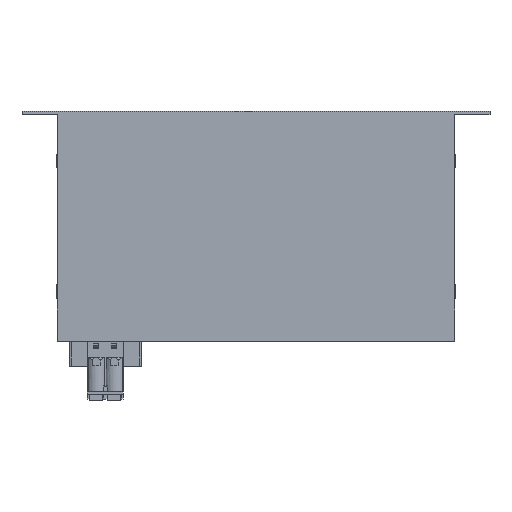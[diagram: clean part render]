
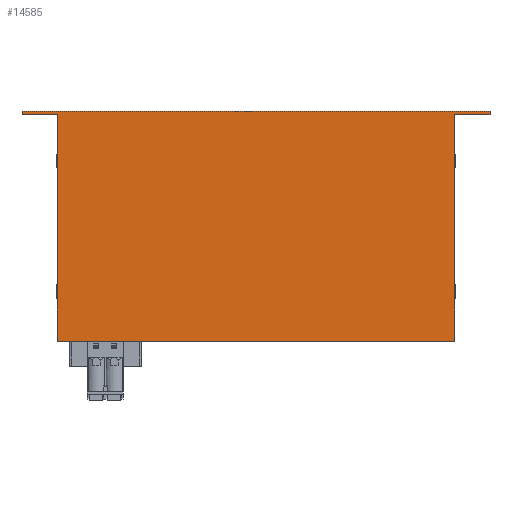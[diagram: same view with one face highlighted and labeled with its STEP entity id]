
A CAD part, top view. The second image highlights one B-rep face of the part: STEP entity #14585.
In plain terms, the highlighted planar face has unit normal (0, 0, 1).
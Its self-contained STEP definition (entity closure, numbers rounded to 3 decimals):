
#13675 = PLANE('',#13676);
#13676 = AXIS2_PLACEMENT_3D('',#13677,#13678,#13679);
#13677 = CARTESIAN_POINT('',(111.725,0.,0.));
#13678 = DIRECTION('',(1.,0.,0.));
#13679 = DIRECTION('',(0.,0.,1.));
#13735 = VERTEX_POINT('',#13736);
#13736 = CARTESIAN_POINT('',(111.725,0.,36.2));
#13750 = PLANE('',#13751);
#13751 = AXIS2_PLACEMENT_3D('',#13752,#13753,#13754);
#13752 = CARTESIAN_POINT('',(0.175,0.,0.));
#13753 = DIRECTION('',(0.,1.,0.));
#13754 = DIRECTION('',(0.,0.,1.));
#13791 = VERTEX_POINT('',#13792);
#13792 = CARTESIAN_POINT('',(111.725,64.1,36.2));
#13806 = PLANE('',#13807);
#13807 = AXIS2_PLACEMENT_3D('',#13808,#13809,#13810);
#13808 = CARTESIAN_POINT('',(111.725,64.1,0.));
#13809 = DIRECTION('',(0.,1.,0.));
#13810 = DIRECTION('',(0.,0.,1.));
#13818 = EDGE_CURVE('',#13735,#13791,#13819,.T.);
#13819 = SURFACE_CURVE('',#13820,(#13824,#13830),.PCURVE_S1.);
#13820 = LINE('',#13821,#13822);
#13821 = CARTESIAN_POINT('',(111.725,0.,36.2));
#13822 = VECTOR('',#13823,1.);
#13823 = DIRECTION('',(0.,1.,0.));
#13824 = PCURVE('',#13675,#13825);
#13825 = DEFINITIONAL_REPRESENTATION('',(#13826),#13829);
#13826 = B_SPLINE_CURVE_WITH_KNOTS('',1,(#13827,#13828),.UNSPECIFIED.,
  .F.,.F.,(2,2),(-6.41,70.51),.PIECEWISE_BEZIER_KNOTS.);
#13827 = CARTESIAN_POINT('',(36.2,6.41));
#13828 = CARTESIAN_POINT('',(36.2,-70.51));
#13829 = ( GEOMETRIC_REPRESENTATION_CONTEXT(2) 
PARAMETRIC_REPRESENTATION_CONTEXT() REPRESENTATION_CONTEXT('2D SPACE',''
  ) );
#13830 = PCURVE('',#13831,#13836);
#13831 = PLANE('',#13832);
#13832 = AXIS2_PLACEMENT_3D('',#13833,#13834,#13835);
#13833 = CARTESIAN_POINT('',(-10.8,0.,36.2));
#13834 = DIRECTION('',(0.,0.,1.));
#13835 = DIRECTION('',(1.,0.,0.));
#13836 = DEFINITIONAL_REPRESENTATION('',(#13837),#13840);
#13837 = B_SPLINE_CURVE_WITH_KNOTS('',1,(#13838,#13839),.UNSPECIFIED.,
  .F.,.F.,(2,2),(-6.41,70.51),.PIECEWISE_BEZIER_KNOTS.);
#13838 = CARTESIAN_POINT('',(122.525,-6.41));
#13839 = CARTESIAN_POINT('',(122.525,70.51));
#13840 = ( GEOMETRIC_REPRESENTATION_CONTEXT(2) 
PARAMETRIC_REPRESENTATION_CONTEXT() REPRESENTATION_CONTEXT('2D SPACE',''
  ) );
#14585 = ADVANCED_FACE('',(#14586),#13831,.T.);
#14586 = FACE_BOUND('',#14587,.T.);
#14587 = EDGE_LOOP('',(#14588,#14618,#14644,#14670,#14691,#14692,#14713,
    #14741));
#14588 = ORIENTED_EDGE('',*,*,#14589,.F.);
#14589 = EDGE_CURVE('',#14590,#14592,#14594,.T.);
#14590 = VERTEX_POINT('',#14591);
#14591 = CARTESIAN_POINT('',(-10.8,64.1,36.2));
#14592 = VERTEX_POINT('',#14593);
#14593 = CARTESIAN_POINT('',(-10.8,65.1,36.2));
#14594 = SURFACE_CURVE('',#14595,(#14599,#14606),.PCURVE_S1.);
#14595 = LINE('',#14596,#14597);
#14596 = CARTESIAN_POINT('',(-10.8,0.,36.2));
#14597 = VECTOR('',#14598,1.);
#14598 = DIRECTION('',(0.,1.,0.));
#14599 = PCURVE('',#13831,#14600);
#14600 = DEFINITIONAL_REPRESENTATION('',(#14601),#14605);
#14601 = LINE('',#14602,#14603);
#14602 = CARTESIAN_POINT('',(0.,0.));
#14603 = VECTOR('',#14604,1.);
#14604 = DIRECTION('',(0.,1.));
#14605 = ( GEOMETRIC_REPRESENTATION_CONTEXT(2) 
PARAMETRIC_REPRESENTATION_CONTEXT() REPRESENTATION_CONTEXT('2D SPACE',''
  ) );
#14606 = PCURVE('',#14607,#14612);
#14607 = PLANE('',#14608);
#14608 = AXIS2_PLACEMENT_3D('',#14609,#14610,#14611);
#14609 = CARTESIAN_POINT('',(-10.8,0.,0.));
#14610 = DIRECTION('',(1.,0.,0.));
#14611 = DIRECTION('',(0.,0.,1.));
#14612 = DEFINITIONAL_REPRESENTATION('',(#14613),#14617);
#14613 = LINE('',#14614,#14615);
#14614 = CARTESIAN_POINT('',(36.2,0.));
#14615 = VECTOR('',#14616,1.);
#14616 = DIRECTION('',(0.,-1.));
#14617 = ( GEOMETRIC_REPRESENTATION_CONTEXT(2) 
PARAMETRIC_REPRESENTATION_CONTEXT() REPRESENTATION_CONTEXT('2D SPACE',''
  ) );
#14618 = ORIENTED_EDGE('',*,*,#14619,.F.);
#14619 = EDGE_CURVE('',#14620,#14590,#14622,.T.);
#14620 = VERTEX_POINT('',#14621);
#14621 = CARTESIAN_POINT('',(-0.825,64.1,36.2));
#14622 = SURFACE_CURVE('',#14623,(#14627,#14633),.PCURVE_S1.);
#14623 = LINE('',#14624,#14625);
#14624 = CARTESIAN_POINT('',(-10.8,64.1,36.2));
#14625 = VECTOR('',#14626,1.);
#14626 = DIRECTION('',(-1.,0.,0.));
#14627 = PCURVE('',#13831,#14628);
#14628 = DEFINITIONAL_REPRESENTATION('',(#14629),#14632);
#14629 = B_SPLINE_CURVE_WITH_KNOTS('',1,(#14630,#14631),.UNSPECIFIED.,
  .F.,.F.,(2,2),(-10.973,0.998),.PIECEWISE_BEZIER_KNOTS.);
#14630 = CARTESIAN_POINT('',(10.973,64.1));
#14631 = CARTESIAN_POINT('',(-0.998,64.1));
#14632 = ( GEOMETRIC_REPRESENTATION_CONTEXT(2) 
PARAMETRIC_REPRESENTATION_CONTEXT() REPRESENTATION_CONTEXT('2D SPACE',''
  ) );
#14633 = PCURVE('',#14634,#14639);
#14634 = PLANE('',#14635);
#14635 = AXIS2_PLACEMENT_3D('',#14636,#14637,#14638);
#14636 = CARTESIAN_POINT('',(-10.8,64.1,0.));
#14637 = DIRECTION('',(0.,1.,0.));
#14638 = DIRECTION('',(0.,0.,1.));
#14639 = DEFINITIONAL_REPRESENTATION('',(#14640),#14643);
#14640 = B_SPLINE_CURVE_WITH_KNOTS('',1,(#14641,#14642),.UNSPECIFIED.,
  .F.,.F.,(2,2),(-10.973,0.998),.PIECEWISE_BEZIER_KNOTS.);
#14641 = CARTESIAN_POINT('',(36.2,10.973));
#14642 = CARTESIAN_POINT('',(36.2,-0.998));
#14643 = ( GEOMETRIC_REPRESENTATION_CONTEXT(2) 
PARAMETRIC_REPRESENTATION_CONTEXT() REPRESENTATION_CONTEXT('2D SPACE',''
  ) );
#14644 = ORIENTED_EDGE('',*,*,#14645,.F.);
#14645 = EDGE_CURVE('',#14646,#14620,#14648,.T.);
#14646 = VERTEX_POINT('',#14647);
#14647 = CARTESIAN_POINT('',(-0.825,0.,36.2));
#14648 = SURFACE_CURVE('',#14649,(#14653,#14659),.PCURVE_S1.);
#14649 = LINE('',#14650,#14651);
#14650 = CARTESIAN_POINT('',(-0.825,0.,36.2));
#14651 = VECTOR('',#14652,1.);
#14652 = DIRECTION('',(0.,1.,0.));
#14653 = PCURVE('',#13831,#14654);
#14654 = DEFINITIONAL_REPRESENTATION('',(#14655),#14658);
#14655 = B_SPLINE_CURVE_WITH_KNOTS('',1,(#14656,#14657),.UNSPECIFIED.,
  .F.,.F.,(2,2),(-6.41,70.51),.PIECEWISE_BEZIER_KNOTS.);
#14656 = CARTESIAN_POINT('',(9.975,-6.41));
#14657 = CARTESIAN_POINT('',(9.975,70.51));
#14658 = ( GEOMETRIC_REPRESENTATION_CONTEXT(2) 
PARAMETRIC_REPRESENTATION_CONTEXT() REPRESENTATION_CONTEXT('2D SPACE',''
  ) );
#14659 = PCURVE('',#14660,#14665);
#14660 = PLANE('',#14661);
#14661 = AXIS2_PLACEMENT_3D('',#14662,#14663,#14664);
#14662 = CARTESIAN_POINT('',(-0.825,0.,0.));
#14663 = DIRECTION('',(1.,0.,0.));
#14664 = DIRECTION('',(0.,0.,1.));
#14665 = DEFINITIONAL_REPRESENTATION('',(#14666),#14669);
#14666 = B_SPLINE_CURVE_WITH_KNOTS('',1,(#14667,#14668),.UNSPECIFIED.,
  .F.,.F.,(2,2),(-6.41,70.51),.PIECEWISE_BEZIER_KNOTS.);
#14667 = CARTESIAN_POINT('',(36.2,6.41));
#14668 = CARTESIAN_POINT('',(36.2,-70.51));
#14669 = ( GEOMETRIC_REPRESENTATION_CONTEXT(2) 
PARAMETRIC_REPRESENTATION_CONTEXT() REPRESENTATION_CONTEXT('2D SPACE',''
  ) );
#14670 = ORIENTED_EDGE('',*,*,#14671,.T.);
#14671 = EDGE_CURVE('',#14646,#13735,#14672,.T.);
#14672 = SURFACE_CURVE('',#14673,(#14677,#14684),.PCURVE_S1.);
#14673 = LINE('',#14674,#14675);
#14674 = CARTESIAN_POINT('',(-10.8,0.,36.2));
#14675 = VECTOR('',#14676,1.);
#14676 = DIRECTION('',(1.,0.,0.));
#14677 = PCURVE('',#13831,#14678);
#14678 = DEFINITIONAL_REPRESENTATION('',(#14679),#14683);
#14679 = LINE('',#14680,#14681);
#14680 = CARTESIAN_POINT('',(0.,0.));
#14681 = VECTOR('',#14682,1.);
#14682 = DIRECTION('',(1.,0.));
#14683 = ( GEOMETRIC_REPRESENTATION_CONTEXT(2) 
PARAMETRIC_REPRESENTATION_CONTEXT() REPRESENTATION_CONTEXT('2D SPACE',''
  ) );
#14684 = PCURVE('',#13750,#14685);
#14685 = DEFINITIONAL_REPRESENTATION('',(#14686),#14690);
#14686 = LINE('',#14687,#14688);
#14687 = CARTESIAN_POINT('',(36.2,-10.975));
#14688 = VECTOR('',#14689,1.);
#14689 = DIRECTION('',(0.,1.));
#14690 = ( GEOMETRIC_REPRESENTATION_CONTEXT(2) 
PARAMETRIC_REPRESENTATION_CONTEXT() REPRESENTATION_CONTEXT('2D SPACE',''
  ) );
#14691 = ORIENTED_EDGE('',*,*,#13818,.T.);
#14692 = ORIENTED_EDGE('',*,*,#14693,.F.);
#14693 = EDGE_CURVE('',#14694,#13791,#14696,.T.);
#14694 = VERTEX_POINT('',#14695);
#14695 = CARTESIAN_POINT('',(121.7,64.1,36.2));
#14696 = SURFACE_CURVE('',#14697,(#14701,#14707),.PCURVE_S1.);
#14697 = LINE('',#14698,#14699);
#14698 = CARTESIAN_POINT('',(50.463,64.1,36.2));
#14699 = VECTOR('',#14700,1.);
#14700 = DIRECTION('',(-1.,0.,0.));
#14701 = PCURVE('',#13831,#14702);
#14702 = DEFINITIONAL_REPRESENTATION('',(#14703),#14706);
#14703 = B_SPLINE_CURVE_WITH_KNOTS('',1,(#14704,#14705),.UNSPECIFIED.,
  .F.,.F.,(2,2),(-72.235,-60.265),.PIECEWISE_BEZIER_KNOTS.);
#14704 = CARTESIAN_POINT('',(133.498,64.1));
#14705 = CARTESIAN_POINT('',(121.528,64.1));
#14706 = ( GEOMETRIC_REPRESENTATION_CONTEXT(2) 
PARAMETRIC_REPRESENTATION_CONTEXT() REPRESENTATION_CONTEXT('2D SPACE',''
  ) );
#14707 = PCURVE('',#13806,#14708);
#14708 = DEFINITIONAL_REPRESENTATION('',(#14709),#14712);
#14709 = B_SPLINE_CURVE_WITH_KNOTS('',1,(#14710,#14711),.UNSPECIFIED.,
  .F.,.F.,(2,2),(-72.235,-60.265),.PIECEWISE_BEZIER_KNOTS.);
#14710 = CARTESIAN_POINT('',(36.2,10.973));
#14711 = CARTESIAN_POINT('',(36.2,-0.998));
#14712 = ( GEOMETRIC_REPRESENTATION_CONTEXT(2) 
PARAMETRIC_REPRESENTATION_CONTEXT() REPRESENTATION_CONTEXT('2D SPACE',''
  ) );
#14713 = ORIENTED_EDGE('',*,*,#14714,.T.);
#14714 = EDGE_CURVE('',#14694,#14715,#14717,.T.);
#14715 = VERTEX_POINT('',#14716);
#14716 = CARTESIAN_POINT('',(121.7,65.1,36.2));
#14717 = SURFACE_CURVE('',#14718,(#14722,#14729),.PCURVE_S1.);
#14718 = LINE('',#14719,#14720);
#14719 = CARTESIAN_POINT('',(121.7,0.,36.2));
#14720 = VECTOR('',#14721,1.);
#14721 = DIRECTION('',(0.,1.,0.));
#14722 = PCURVE('',#13831,#14723);
#14723 = DEFINITIONAL_REPRESENTATION('',(#14724),#14728);
#14724 = LINE('',#14725,#14726);
#14725 = CARTESIAN_POINT('',(132.5,0.));
#14726 = VECTOR('',#14727,1.);
#14727 = DIRECTION('',(0.,1.));
#14728 = ( GEOMETRIC_REPRESENTATION_CONTEXT(2) 
PARAMETRIC_REPRESENTATION_CONTEXT() REPRESENTATION_CONTEXT('2D SPACE',''
  ) );
#14729 = PCURVE('',#14730,#14735);
#14730 = PLANE('',#14731);
#14731 = AXIS2_PLACEMENT_3D('',#14732,#14733,#14734);
#14732 = CARTESIAN_POINT('',(121.7,0.,0.));
#14733 = DIRECTION('',(1.,0.,0.));
#14734 = DIRECTION('',(0.,0.,1.));
#14735 = DEFINITIONAL_REPRESENTATION('',(#14736),#14740);
#14736 = LINE('',#14737,#14738);
#14737 = CARTESIAN_POINT('',(36.2,0.));
#14738 = VECTOR('',#14739,1.);
#14739 = DIRECTION('',(0.,-1.));
#14740 = ( GEOMETRIC_REPRESENTATION_CONTEXT(2) 
PARAMETRIC_REPRESENTATION_CONTEXT() REPRESENTATION_CONTEXT('2D SPACE',''
  ) );
#14741 = ORIENTED_EDGE('',*,*,#14742,.F.);
#14742 = EDGE_CURVE('',#14592,#14715,#14743,.T.);
#14743 = SURFACE_CURVE('',#14744,(#14748,#14755),.PCURVE_S1.);
#14744 = LINE('',#14745,#14746);
#14745 = CARTESIAN_POINT('',(-10.8,65.1,36.2));
#14746 = VECTOR('',#14747,1.);
#14747 = DIRECTION('',(1.,0.,0.));
#14748 = PCURVE('',#13831,#14749);
#14749 = DEFINITIONAL_REPRESENTATION('',(#14750),#14754);
#14750 = LINE('',#14751,#14752);
#14751 = CARTESIAN_POINT('',(0.,65.1));
#14752 = VECTOR('',#14753,1.);
#14753 = DIRECTION('',(1.,0.));
#14754 = ( GEOMETRIC_REPRESENTATION_CONTEXT(2) 
PARAMETRIC_REPRESENTATION_CONTEXT() REPRESENTATION_CONTEXT('2D SPACE',''
  ) );
#14755 = PCURVE('',#14756,#14761);
#14756 = PLANE('',#14757);
#14757 = AXIS2_PLACEMENT_3D('',#14758,#14759,#14760);
#14758 = CARTESIAN_POINT('',(-10.8,65.1,0.));
#14759 = DIRECTION('',(0.,1.,0.));
#14760 = DIRECTION('',(0.,0.,1.));
#14761 = DEFINITIONAL_REPRESENTATION('',(#14762),#14766);
#14762 = LINE('',#14763,#14764);
#14763 = CARTESIAN_POINT('',(36.2,0.));
#14764 = VECTOR('',#14765,1.);
#14765 = DIRECTION('',(0.,1.));
#14766 = ( GEOMETRIC_REPRESENTATION_CONTEXT(2) 
PARAMETRIC_REPRESENTATION_CONTEXT() REPRESENTATION_CONTEXT('2D SPACE',''
  ) );
